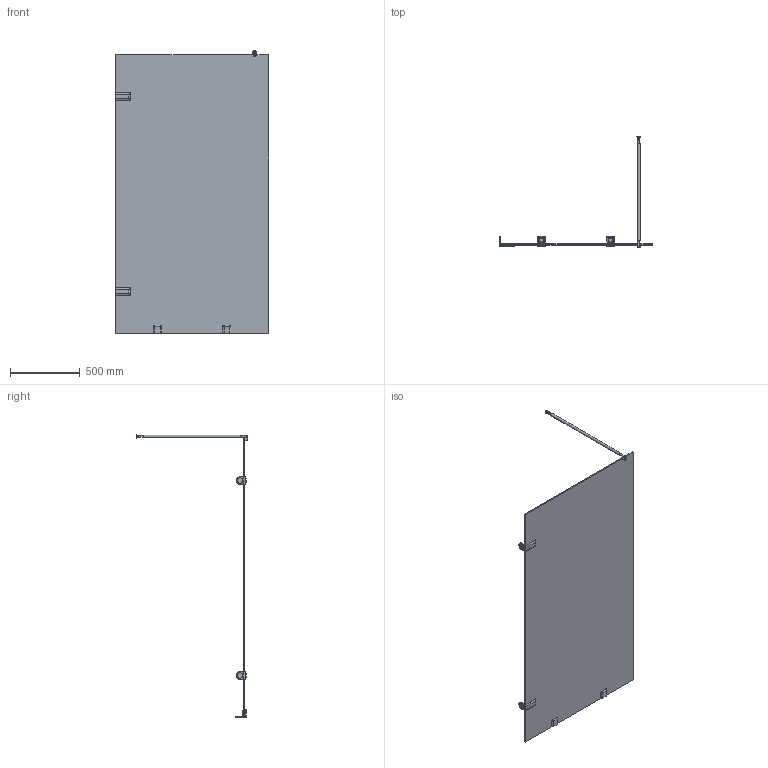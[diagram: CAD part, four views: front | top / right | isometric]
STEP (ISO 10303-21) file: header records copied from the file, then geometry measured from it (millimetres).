
FILE_DESCRIPTION(/* description */ (''),/* implementation_level */ '2;1');
FILE_NAME(/* name */ 'D:\77\TREND DOOR GK-861NBITL\TREND DOOR GK-861NBITL левая модель\TREND DOOR GK-861NBITL ЛЕВАЯ-3D.stp',/* time_stamp */ '2020-12-28T18:33:04+03:00',/* author */ ('User'),/* organization */ (''),/* preprocessor_version */ 'ST-DEVELOPER v15.2',/* originating_system */ 'Autodesk Inventor 2014',/* authorisation */ '');
FILE_SCHEMA (('AUTOMOTIVE_DESIGN { 1 0 10303 214 3 1 1 }'));
Length unit declared in the file: millimetre
Products named in the file (1): TREND DOOR GK-861NBITL ЛЕВАЯ-3D
Bounding box: 1100 x 800 x 2031.5 mm (x, y, z)
Volume: 18110705.9 mm3; surface area: 4540888.4 mm2
Topology: 3 solids, 3 shells, 197 faces, 465 edges, 288 vertices
Faces by surface type: plane 79, cylinder 56, torus 20, bspline 17, sphere 17, cone 8
Full cylindrical faces by diameter (mm): 13 x2, 15 x2, 20 x3, 26 x1, 40 x2
Entity records: 6597 total; most frequent: CARTESIAN_POINT 2064, DIRECTION 898, ORIENTED_EDGE 832, EDGE_CURVE 416, AXIS2_PLACEMENT_3D 349, VERTEX_POINT 279, EDGE_LOOP 251, LINE 200
